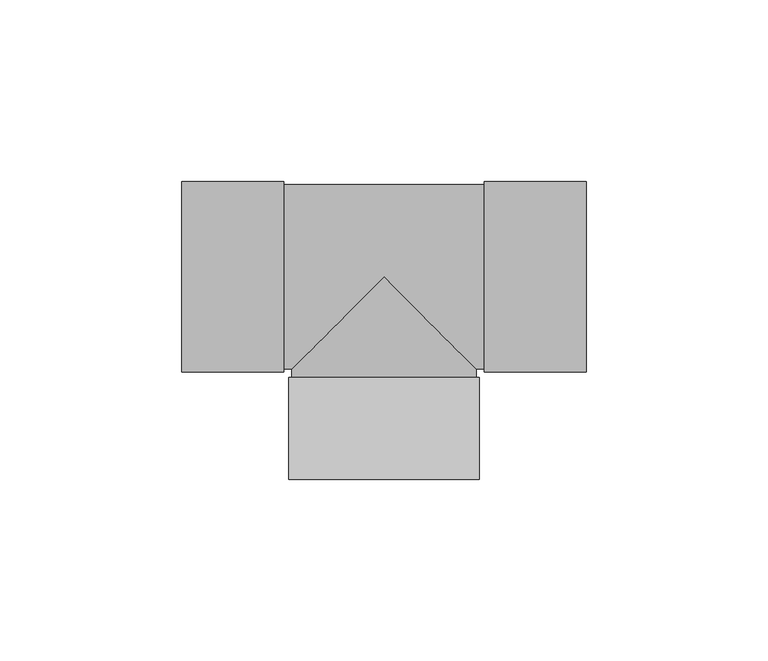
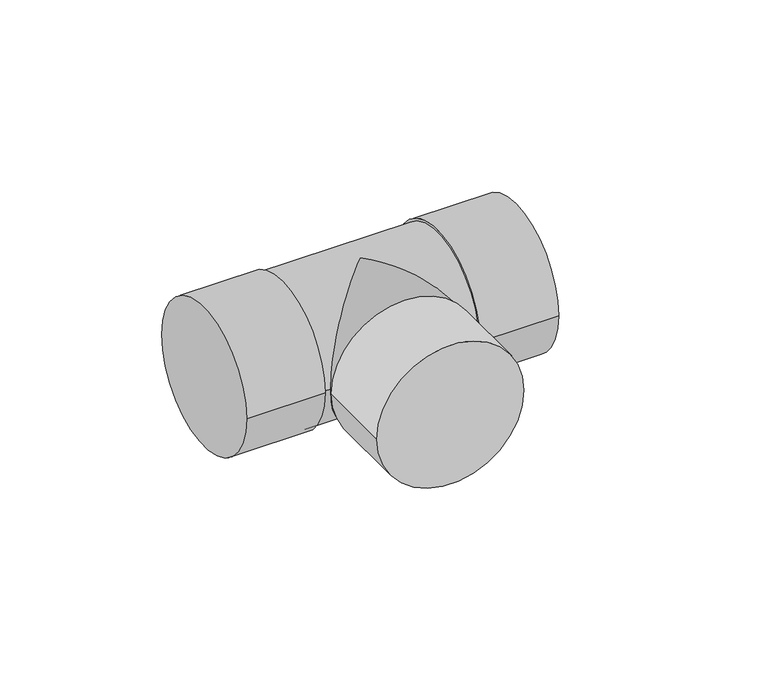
"""IFC4 building model written with IfcOpenShell, lengths in millimetres: pipe fitting geometry, Tê - Soldado - CU : Padrão."""

from ifc_helpers import new_model, si_unit, frame, origin, place, context, project, spatial, circle_curve, ellipse_curve, source, transform, mapped, element, save
from ifc_brep_helpers import plane_surface, cylinder_surface, advanced_brep


def pipe_fitting_3f76be59(model_context):
    return source(origin(), model_context, "Body", "AdvancedBrep", [
        advanced_brep(
        [(26.278, -55.878, 0.0), (-26.278, -55.878, 0.0), (26.278, -27.792, 0.0), (-26.278, -27.792, 0.0), (25.4, -27.792, 0.0), (-25.4, -27.792, 0.0), (-55.754, -26.278, 0.0), (-55.754, 26.278, 0.0), (-27.668, -26.278, 0.0), (-27.668, 26.278, 0.0), (-27.668, -25.4, 0.0), (-27.668, 25.4, 0.0), (27.668, 25.4, 0.0), (-25.4, -25.4, 0.0), (0.0, 0.0, 25.4), (25.4, -25.4, 0.0), (27.668, -25.4, 0.0), (0.0, 0.0, -25.4), (27.668, -26.278, 0.0), (27.668, 26.278, 0.0), (55.754, -26.278, 0.0), (55.754, 26.278, 0.0)],
        [
            (0, 1, circle_curve(frame((0.0, -55.878, 0.0), z_axis=(0.0, -1.0, 0.0), x_axis=(-1.0, 0.0, 0.0)), 26.278)),
            (1, 0, circle_curve(frame((0.0, -55.878, 0.0), z_axis=(0.0, -1.0, 0.0), x_axis=(-1.0, 0.0, 0.0)), 26.278)),
            (2, 3, circle_curve(frame((0.0, -27.792, 0.0), z_axis=(0.0, 1.0, 0.0), x_axis=(-1.0, 0.0, 0.0)), 26.278)),
            (3, 2, circle_curve(frame((0.0, -27.792, 0.0), z_axis=(0.0, 1.0, 0.0), x_axis=(-1.0, 0.0, 0.0)), 26.278)),
            (4, 5, circle_curve(frame((0.0, -27.792, 0.0), z_axis=(0.0, -1.0, 0.0), x_axis=(1.0, 0.0, 0.0)), 25.4)),
            (5, 4, circle_curve(frame((0.0, -27.792, 0.0), z_axis=(0.0, -1.0, 0.0), x_axis=(1.0, 0.0, 0.0)), 25.4)),
            (0, 2),
            (3, 1),
            (6, 7, circle_curve(frame((-55.754, 0.0, 0.0), z_axis=(-1.0, 0.0, 0.0), x_axis=(0.0, 1.0, 0.0)), 26.278)),
            (7, 6, circle_curve(frame((-55.754, 0.0, 0.0), z_axis=(-1.0, 0.0, 0.0), x_axis=(0.0, 1.0, 0.0)), 26.278)),
            (8, 9, circle_curve(frame((-27.668, 0.0, 0.0), z_axis=(1.0, 0.0, 0.0), x_axis=(0.0, 1.0, 0.0)), 26.278)),
            (9, 8, circle_curve(frame((-27.668, 0.0, 0.0), z_axis=(1.0, 0.0, 0.0), x_axis=(0.0, 1.0, 0.0)), 26.278)),
            (10, 11, circle_curve(frame((-27.668, 0.0, 0.0), z_axis=(-1.0, 0.0, 0.0), x_axis=(0.0, 1.0, 0.0)), 25.4)),
            (11, 10, circle_curve(frame((-27.668, 0.0, 0.0), z_axis=(-1.0, 0.0, 0.0), x_axis=(0.0, 1.0, 0.0)), 25.4)),
            (6, 8),
            (9, 7),
            (12, 11),
            (10, 13),
            (13, 14, ellipse_curve(frame((0.0, 0.0, 0.0), z_axis=(-0.7071067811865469, 0.7071067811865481, 0.0), x_axis=(-0.707106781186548, -0.7071067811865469, 0.0)), 35.9210245, 25.4)),
            (14, 15, ellipse_curve(frame((0.0, 0.0, 0.0), z_axis=(0.7071067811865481, 0.7071067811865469, 0.0), x_axis=(-0.707106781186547, 0.7071067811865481, 0.0)), 35.9210245, 25.4)),
            (15, 16),
            (16, 12, circle_curve(frame((27.668, 0.0, 0.0), z_axis=(-1.0, 0.0, 0.0), x_axis=(0.0, 1.0, 0.0)), 25.4)),
            (12, 16, circle_curve(frame((27.668, 0.0, 0.0), z_axis=(-1.0, 0.0, 0.0), x_axis=(0.0, 1.0, 0.0)), 25.4)),
            (15, 17, ellipse_curve(frame((0.0, 0.0, 0.0), z_axis=(0.7071067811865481, 0.7071067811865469, 0.0), x_axis=(-0.707106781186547, 0.7071067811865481, 0.0)), 35.9210245, 25.4)),
            (17, 13, ellipse_curve(frame((0.0, 0.0, 0.0), z_axis=(-0.7071067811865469, 0.7071067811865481, 0.0), x_axis=(-0.707106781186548, -0.7071067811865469, 0.0)), 35.9210245, 25.4)),
            (18, 19, circle_curve(frame((27.668, 0.0, 0.0), z_axis=(-1.0, 0.0, 0.0), x_axis=(0.0, 1.0, 0.0)), 26.278)),
            (19, 18, circle_curve(frame((27.668, 0.0, 0.0), z_axis=(-1.0, 0.0, 0.0), x_axis=(0.0, 1.0, 0.0)), 26.278)),
            (20, 21, circle_curve(frame((55.754, 0.0, 0.0), z_axis=(1.0, 0.0, 0.0), x_axis=(0.0, 1.0, 0.0)), 26.278)),
            (21, 20, circle_curve(frame((55.754, 0.0, 0.0), z_axis=(1.0, 0.0, 0.0), x_axis=(0.0, 1.0, 0.0)), 26.278)),
            (18, 20),
            (21, 19),
            (4, 15),
            (13, 5),
        ],
        [
            plane_surface(frame((0.0, -55.878, 0.0), z_axis=(0.0, -1.0, 0.0), x_axis=(0.0, 0.0, 1.0))),
            plane_surface(frame((0.0, -27.792, 0.0), z_axis=(0.0, 1.0, 0.0), x_axis=(0.0, 0.0, 1.0))),
            cylinder_surface(frame((0.0, -55.878, 0.0), z_axis=(0.0, -1.0, 0.0), x_axis=(-1.0, 0.0, 0.0)), 26.278),
            plane_surface(frame((-55.754, 0.0, 0.0), z_axis=(-1.0, 0.0, 0.0), x_axis=(0.0, 0.0, 1.0))),
            plane_surface(frame((-27.668, 0.0, 0.0), z_axis=(1.0, 0.0, 0.0), x_axis=(0.0, 0.0, 1.0))),
            cylinder_surface(frame((-55.754, 0.0, 0.0), z_axis=(-1.0, 0.0, 0.0), x_axis=(0.0, 1.0, 0.0)), 26.278),
            cylinder_surface(frame((-27.668, 0.0, 0.0), z_axis=(-1.0, 0.0, 0.0), x_axis=(0.0, 1.0, 0.0)), 25.4),
            plane_surface(frame((27.668, 0.0, 0.0), z_axis=(-1.0, 0.0, 0.0), x_axis=(0.0, 0.0, 1.0))),
            plane_surface(frame((55.754, 0.0, 0.0), z_axis=(1.0, 0.0, 0.0), x_axis=(0.0, 0.0, 1.0))),
            cylinder_surface(frame((27.668, 0.0, 0.0), z_axis=(-1.0, 0.0, 0.0), x_axis=(0.0, 1.0, 0.0)), 26.278),
            cylinder_surface(frame((0.0, 0.0, 0.0), z_axis=(0.0, 1.0, 0.0), x_axis=(1.0, 0.0, 0.0)), 25.4),
        ],
        [
            (0, [[1, 2]]),
            (1, [[3, 4], [5, 6]]),
            (2, [[-1, 7, -4, 8]]),
            (2, [[-2, -8, -3, -7]]),
            (3, [[9, 10]]),
            (4, [[11, 12], [13, 14]]),
            (5, [[-9, 15, -12, 16]]),
            (5, [[-10, -16, -11, -15]]),
            (6, [[17, -13, 18, 19, 20, 21, 22]]),
            (6, [[-17, 23, -21, 24, 25, -18, -14]]),
            (7, [[26, 27], [-22, -23]]),
            (8, [[28, 29]]),
            (9, [[-26, 30, -29, 31]]),
            (9, [[-27, -31, -28, -30]]),
            (10, [[32, -20, -19, 33, -5]]),
            (10, [[-32, -6, -33, -25, -24]]),
        ],
    ),
    ])


if __name__ == "__main__":
    model = new_model("IFC4")
    model_context = context("Model", 3, world=origin())
    ifc_project = project(units=[si_unit("LENGTHUNIT", "METRE", prefix="MILLI")], contexts=[model_context])
    site = spatial("IfcSite", under=ifc_project)
    building = spatial("IfcBuilding", under=site)
    placement = place(None, origin())
    pipe_fitting_shape = pipe_fitting_3f76be59(model_context)
    element("IfcPipeFitting", 1, ObjectType="Tê - Soldado - CU : Padrão", at=placement, inside=building, context=model_context, shape_type="MappedRepresentation", body=[
        mapped(pipe_fitting_shape, transform((0.0, 0.0, 0.0), x_axis=(1.0, 0.0, 0.0), y_axis=(0.0, 1.0, 0.0), z_axis=(0.0, 0.0, 1.0))),
    ])
    save(model, "model.ifc")
